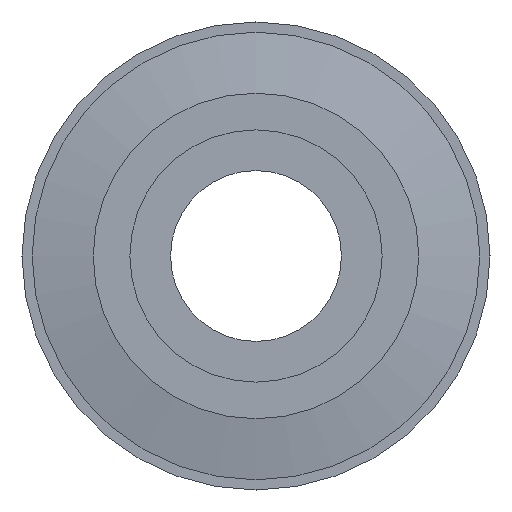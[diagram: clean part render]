
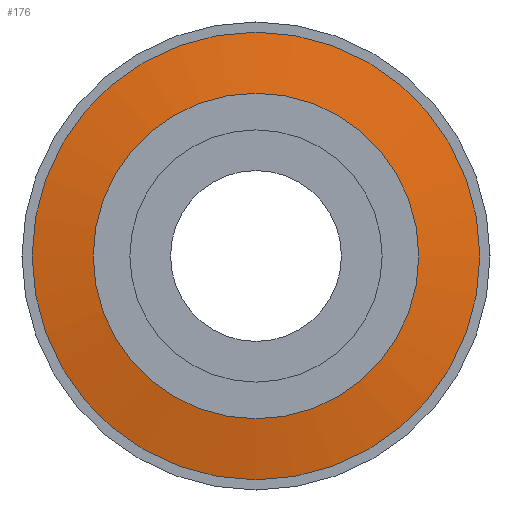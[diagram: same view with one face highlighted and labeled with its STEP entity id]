
A CAD part, front view. The second image highlights one B-rep face of the part: STEP entity #176.
In plain terms, the highlighted conical face has half-angle 80 degrees and reference radius 4.75 mm.
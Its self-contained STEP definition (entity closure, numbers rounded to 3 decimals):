
#142=CARTESIAN_POINT('',(-4.,-2.8,0.0));
#143=VERTEX_POINT('',#142);
#144=CARTESIAN_POINT('',(0.0,-2.8,0.0));
#145=DIRECTION('',(0.0,1.0,0.0));
#146=DIRECTION('',(-1.0,0.0,0.0));
#147=AXIS2_PLACEMENT_3D('',#144,#145,#146);
#148=CIRCLE('',#147,4.);
#149=EDGE_CURVE('',#143,#143,#148,.T.);
#157=CARTESIAN_POINT('',(0.0,-2.668,0.0));
#158=DIRECTION('',(0.0,1.0,0.0));
#159=DIRECTION('',(-1.0,0.0,0.0));
#160=AXIS2_PLACEMENT_3D('',#157,#158,#159);
#161=CONICAL_SURFACE('',#160,4.75,80.);
#162=CARTESIAN_POINT('',(-5.5,-2.536,0.0));
#163=VERTEX_POINT('',#162);
#164=CARTESIAN_POINT('',(0.0,-2.536,0.0));
#165=DIRECTION('',(0.0,1.0,0.0));
#166=DIRECTION('',(-1.0,0.0,0.0));
#167=AXIS2_PLACEMENT_3D('',#164,#165,#166);
#168=CIRCLE('',#167,5.5);
#169=EDGE_CURVE('',#163,#163,#168,.T.);
#170=ORIENTED_EDGE('',*,*,#169,.F.);
#171=EDGE_LOOP('',(#170));
#172=FACE_OUTER_BOUND('',#171,.T.);
#173=ORIENTED_EDGE('',*,*,#149,.T.);
#174=EDGE_LOOP('',(#173));
#175=FACE_BOUND('',#174,.T.);
#176=ADVANCED_FACE('',(#172,#175),#161,.T.);
